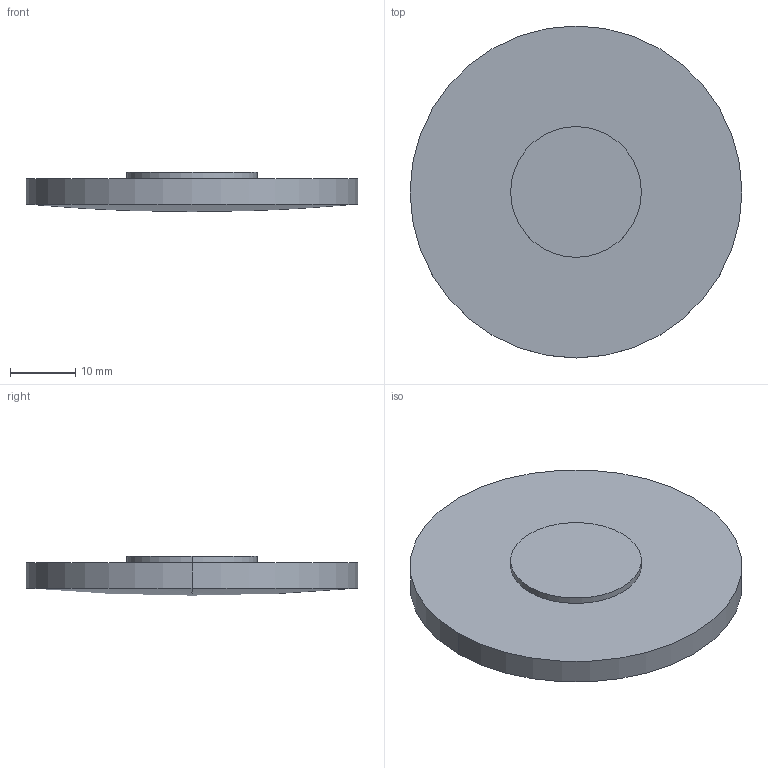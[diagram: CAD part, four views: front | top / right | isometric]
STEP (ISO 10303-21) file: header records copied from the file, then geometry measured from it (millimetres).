
FILE_DESCRIPTION(('STEP AP214'),'1');
FILE_NAME('LLQ-51610.STEP','2020-03-09T17:41:53',(' '),(' '),'Spatial InterOp 3D',' ',' ');
FILE_SCHEMA(('AUTOMOTIVE_DESIGN { 1 0 10303 214 1 1 1 1 }'));
Length unit declared in the file: millimetre
Products named in the file (1): 1
Bounding box: 50.8 x 50.8 x 6 mm (x, y, z)
Volume: 9290.8 mm3; surface area: 5364.5 mm2
Topology: 2 solids, 2 shells, 9 faces, 16 edges, 9 vertices
Faces by surface type: cylinder 4, plane 3, sphere 2
Entity records: 229 total; most frequent: DIRECTION 46, CARTESIAN_POINT 34, ORIENTED_EDGE 28, AXIS2_PLACEMENT_3D 21, EDGE_CURVE 14, CIRCLE 10, ADVANCED_FACE 9, FACE_OUTER_BOUND 9
